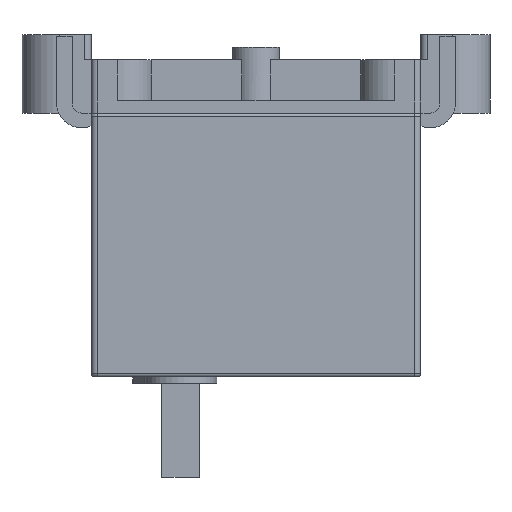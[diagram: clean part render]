
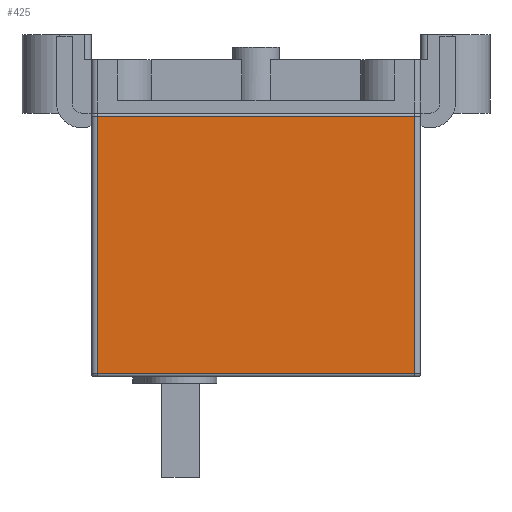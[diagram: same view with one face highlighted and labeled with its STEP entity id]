
A CAD part, left-side view. The second image highlights one B-rep face of the part: STEP entity #425.
In plain terms, the highlighted planar face has unit normal (-1, 0, 0).
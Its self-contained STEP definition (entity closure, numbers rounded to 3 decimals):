
#109=PLANE('',#4070);
#425=ADVANCED_FACE('',(#689),#109,.F.);
#689=FACE_OUTER_BOUND('',#912,.T.);
#912=EDGE_LOOP('',(#2269,#2270,#2271,#2272));
#1219=LINE('',#6055,#1531);
#1228=LINE('',#6138,#1540);
#1234=LINE('',#6153,#1546);
#1235=LINE('',#6155,#1547);
#1531=VECTOR('',#4901,1.);
#1540=VECTOR('',#4958,1.);
#1546=VECTOR('',#4980,1.);
#1547=VECTOR('',#4983,1.);
#2269=ORIENTED_EDGE('',*,*,#3418,.T.);
#2270=ORIENTED_EDGE('',*,*,#3383,.T.);
#2271=ORIENTED_EDGE('',*,*,#3419,.F.);
#2272=ORIENTED_EDGE('',*,*,#3409,.T.);
#2929=VERTEX_POINT('',#6040);
#2933=VERTEX_POINT('',#6052);
#2948=VERTEX_POINT('',#6110);
#2952=VERTEX_POINT('',#6137);
#3383=EDGE_CURVE('',#2933,#2929,#1219,.T.);
#3409=EDGE_CURVE('',#2948,#2952,#1228,.T.);
#3418=EDGE_CURVE('',#2952,#2933,#1234,.T.);
#3419=EDGE_CURVE('',#2948,#2929,#1235,.T.);
#4070=AXIS2_PLACEMENT_3D('',#6156,#4984,#4985);
#4901=DIRECTION('',(0.,1.,0.));
#4958=DIRECTION('',(0.,-1.,0.));
#4980=DIRECTION('',(0.,0.,1.));
#4983=DIRECTION('',(0.,0.,1.));
#4984=DIRECTION('',(1.,0.,0.));
#4985=DIRECTION('',(0.,1.,0.));
#6040=CARTESIAN_POINT('',(-197.5,50.5,-1.));
#6052=CARTESIAN_POINT('',(-197.5,-50.5,-1.));
#6055=CARTESIAN_POINT('',(-197.5,-50.5,-1.));
#6110=CARTESIAN_POINT('',(-197.5,50.5,-83.));
#6137=CARTESIAN_POINT('',(-197.5,-50.5,-83.));
#6138=CARTESIAN_POINT('',(-197.5,-50.5,-83.));
#6153=CARTESIAN_POINT('',(-197.5,-50.5,-84.));
#6155=CARTESIAN_POINT('',(-197.5,50.5,-84.));
#6156=CARTESIAN_POINT('',(-197.5,-50.5,-84.));
